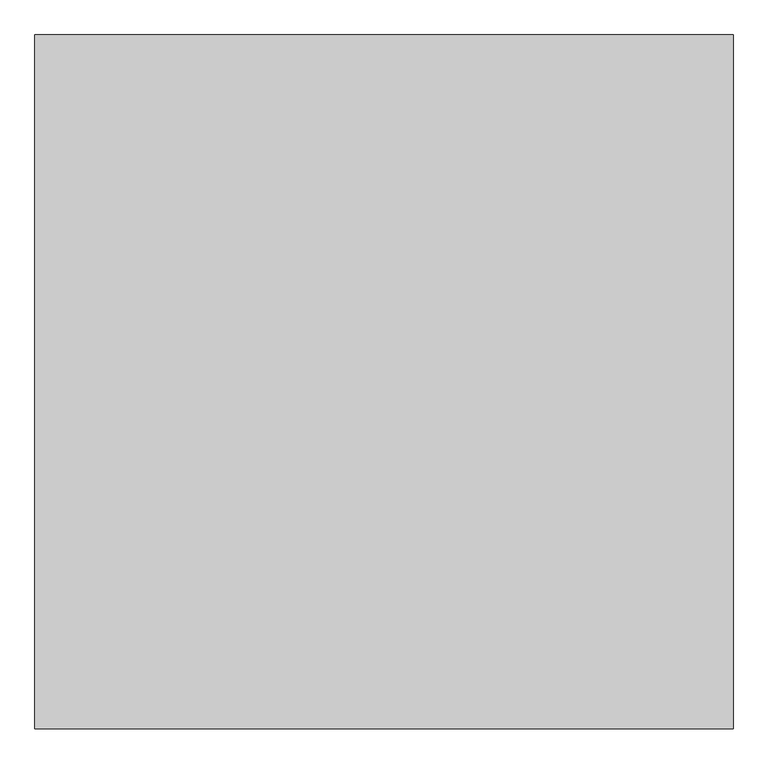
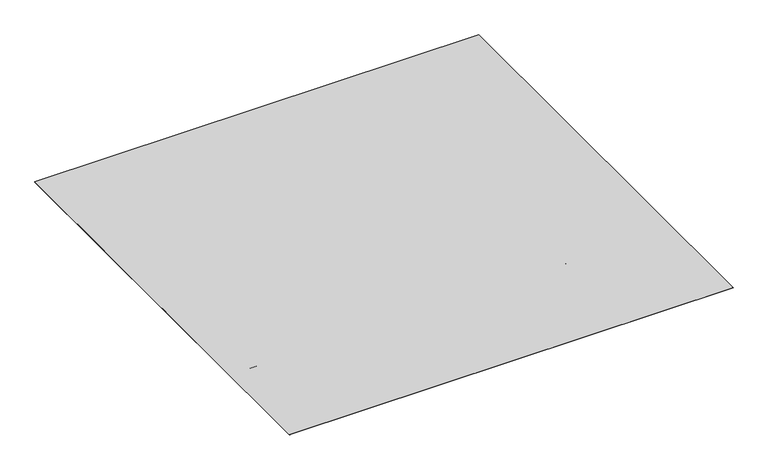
"""IFC4 building model written with IfcOpenShell, lengths in millimetres: proxy geometry, IMPER:IMPER:433934 : IMPER:IMPER:433934."""

from ifc_helpers import new_model, si_unit, frame, origin, place, context, project, spatial, polyline, outline, extrude, source, transform, mapped, element, save


def generic_models_80ce33e3(model_context):
    return source(origin(), model_context, "Body", "SweptSolid", [
        extrude(outline(polyline([(-351.9704105, 145.8700195), (1528.6754681, 145.8700195), (1528.6754681, -1734.1299805), (-351.9704105, -1734.1299805), (-351.9704105, 145.8700195)])), frame((0.0, 0.0, 2295.4505335), z_axis=(0.0, 0.0, 1.0), x_axis=(1.0, 0.0, 0.0)), (0.0, 0.0, 1.0), 1.0),
        extrude(outline(polyline([(-351.9704105, 145.8700195), (2123.0295895, 145.8700195), (2123.0295895, -2314.1299805), (-351.9704105, -2314.1299805), (-351.9704105, 145.8700195)])), frame((0.0, 0.0, 2296.4505335), z_axis=(0.0, 0.0, 1.0), x_axis=(1.0, 0.0, 0.0)), (0.0, 0.0, 1.0), 1.0256685),
    ])


if __name__ == "__main__":
    model = new_model("IFC4")
    model_context = context("Model", 3, world=origin())
    ifc_project = project(units=[si_unit("LENGTHUNIT", "METRE", prefix="MILLI")], contexts=[model_context])
    site = spatial("IfcSite", under=ifc_project)
    building = spatial("IfcBuilding", under=site)
    placement = place(None, origin())
    generic_models_shape = generic_models_80ce33e3(model_context)
    element("IfcBuildingElementProxy", 1, Name="IMPER:IMPER:433934 : IMPER:IMPER:433934", ObjectType="IMPER:IMPER:433934 : IMPER:IMPER:433934", at=placement, inside=building, context=model_context, shape_type="MappedRepresentation", body=[
        mapped(generic_models_shape, transform((0.0, 0.0, 0.0), x_axis=(1.0, 0.0, 0.0), y_axis=(0.0, 1.0, 0.0), z_axis=(0.0, 0.0, 1.0))),
    ])
    save(model, "model.ifc")
